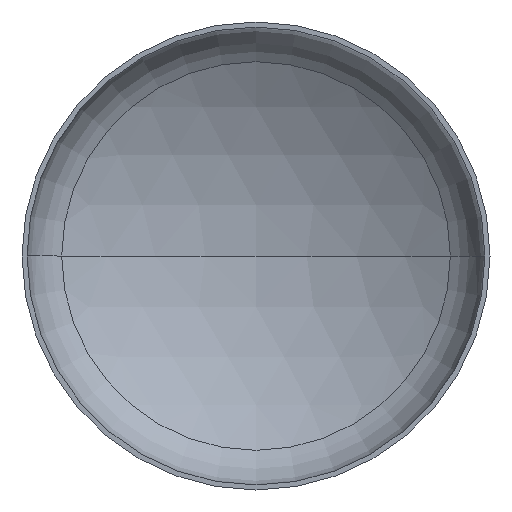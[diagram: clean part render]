
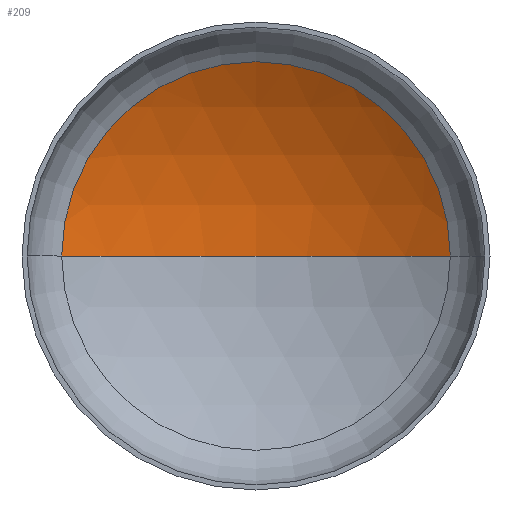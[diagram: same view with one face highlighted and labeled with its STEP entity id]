
A CAD part, front view. The second image highlights one B-rep face of the part: STEP entity #209.
In plain terms, the highlighted spherical face has radius 4000 mm.
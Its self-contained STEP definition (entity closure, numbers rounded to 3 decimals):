
#1 = AXIS2_PLACEMENT_3D ( 'NONE', #66, #97, #104 ) ;
#7 = CARTESIAN_POINT ( 'NONE',  ( 0., 778.23, 0. ) ) ;
#12 = CIRCLE ( 'NONE', #49, 4000. ) ;
#14 = EDGE_LOOP ( 'NONE', ( #83, #115, #35 ) ) ;
#15 = CARTESIAN_POINT ( 'NONE',  ( 0., -2641.145, 0. ) ) ;
#23 = VERTEX_POINT ( 'NONE', #279 ) ;
#33 = AXIS2_PLACEMENT_3D ( 'NONE', #241, #164, #219 ) ;
#35 = ORIENTED_EDGE ( 'NONE', *, *, #109, .T. ) ;
#49 = AXIS2_PLACEMENT_3D ( 'NONE', #15, #217, #386 ) ;
#53 = AXIS2_PLACEMENT_3D ( 'NONE', #7, #287, #262 ) ;
#66 = CARTESIAN_POINT ( 'NONE',  ( 0., -2641.145, 0. ) ) ;
#83 = ORIENTED_EDGE ( 'NONE', *, *, #360, .F. ) ;
#97 = DIRECTION ( 'NONE',  ( 0., 0., 1. ) ) ;
#104 = DIRECTION ( 'NONE',  ( 1., 0., 0. ) ) ;
#109 = EDGE_CURVE ( 'NONE', #185, #23, #306, .T. ) ;
#110 = EDGE_CURVE ( 'NONE', #123, #185, #12, .T. ) ;
#115 = ORIENTED_EDGE ( 'NONE', *, *, #110, .T. ) ;
#123 = VERTEX_POINT ( 'NONE', #158 ) ;
#158 = CARTESIAN_POINT ( 'NONE',  ( 0., 1358.855, 0. ) ) ;
#164 = DIRECTION ( 'NONE',  ( 0., 0., -1. ) ) ;
#185 = VERTEX_POINT ( 'NONE', #197 ) ;
#197 = CARTESIAN_POINT ( 'NONE',  ( 2075.542, 778.23, 0. ) ) ;
#209 = ADVANCED_FACE ( 'NONE', ( #358 ), #224, .F. ) ;
#217 = DIRECTION ( 'NONE',  ( 0., 0., -1. ) ) ;
#219 = DIRECTION ( 'NONE',  ( -1., 0., 0. ) ) ;
#224 = SPHERICAL_SURFACE ( 'NONE', #33, 4000. ) ;
#241 = CARTESIAN_POINT ( 'NONE',  ( 0., -2641.145, 0. ) ) ;
#258 = CIRCLE ( 'NONE', #1, 4000. ) ;
#262 = DIRECTION ( 'NONE',  ( 1., 0., 0. ) ) ;
#279 = CARTESIAN_POINT ( 'NONE',  ( -2075.542, 778.23, 0. ) ) ;
#287 = DIRECTION ( 'NONE',  ( 0., -1., 0. ) ) ;
#306 = CIRCLE ( 'NONE', #53, 2075.542 ) ;
#358 = FACE_OUTER_BOUND ( 'NONE', #14, .T. ) ;
#360 = EDGE_CURVE ( 'NONE', #123, #23, #258, .T. ) ;
#386 = DIRECTION ( 'NONE',  ( -1., 0., 0. ) ) ;
